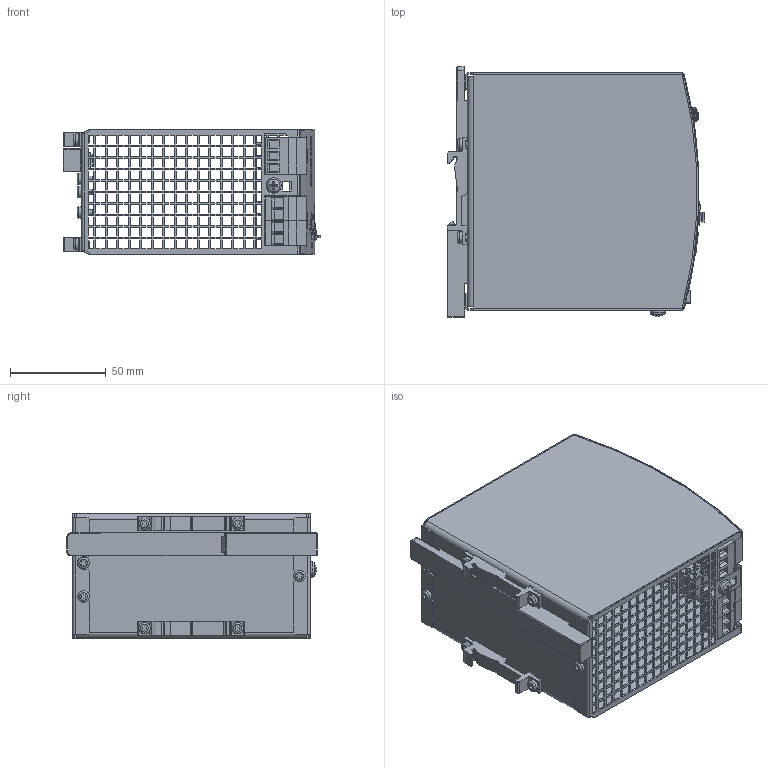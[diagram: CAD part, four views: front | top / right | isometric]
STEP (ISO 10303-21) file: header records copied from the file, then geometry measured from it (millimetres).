
FILE_DESCRIPTION((''),'2;1');
FILE_NAME('C:\Users\rahns\Desktop\Marketing\SD1CPS20-241-C1SR1_SC_2014-05-20.stp','2014-05-20T09:40:52',('rahns'),(''),'Autodesk Inventor 2009','Autodesk Inventor 2009','');
FILE_SCHEMA(('AUTOMOTIVE_DESIGN { 1 0 10303 214 1 1 1 1 }'));
Length unit declared in the file: millimetre
Products named in the file (14): 382; HOUSING COVER 382; HOUSING BODY 382; TERMINAL 2P D1; TERMINAL 3P R6,35 T; T HOLDER; SLIDER; POTENTIOMETER COVER; JUMPER; ALT_ XT-LP2SW-R3; SCREW 3x6; SCREW 4x8; JUMPER BRACKET; FRONTFOIL 382
Assembly tree (21 placements, depth 2):
  382
    HOUSING COVER 382
    HOUSING BODY 382
    TERMINAL 2P D1  x2
    TERMINAL 3P R6,35 T
    T HOLDER  x2
    SLIDER
    POTENTIOMETER COVER
    JUMPER
    ALT_ XT-LP2SW-R3
    SCREW 3x6  x7
    SCREW 4x8
    JUMPER BRACKET
    FRONTFOIL 382
Bounding box: 134.57 x 130.5 x 65 mm (x, y, z)
Volume: 93698.8 mm3; surface area: 139838 mm2
Topology: 21 solids, 21 shells, 3523 faces, 9902 edges, 6557 vertices
Faces by surface type: plane 2640, bspline 551, cylinder 271, torus 27, cone 21, sphere 13
Full cylindrical faces by diameter (mm): 1 x2, 2.696 x1, 3 x7, 3.1 x4, 3.145 x1, 3.5 x1, 3.621 x1, 4 x1, 4.355 x1, 4.5 x2, 5.15 x7, 6 x7
Entity records: 116152 total; most frequent: CARTESIAN_POINT 31867, ORIENTED_EDGE 18470, DIRECTION 14609, EDGE_CURVE 9235, VECTOR 7205, LINE 7205, VERTEX_POINT 6143, EDGE_LOOP 4172
